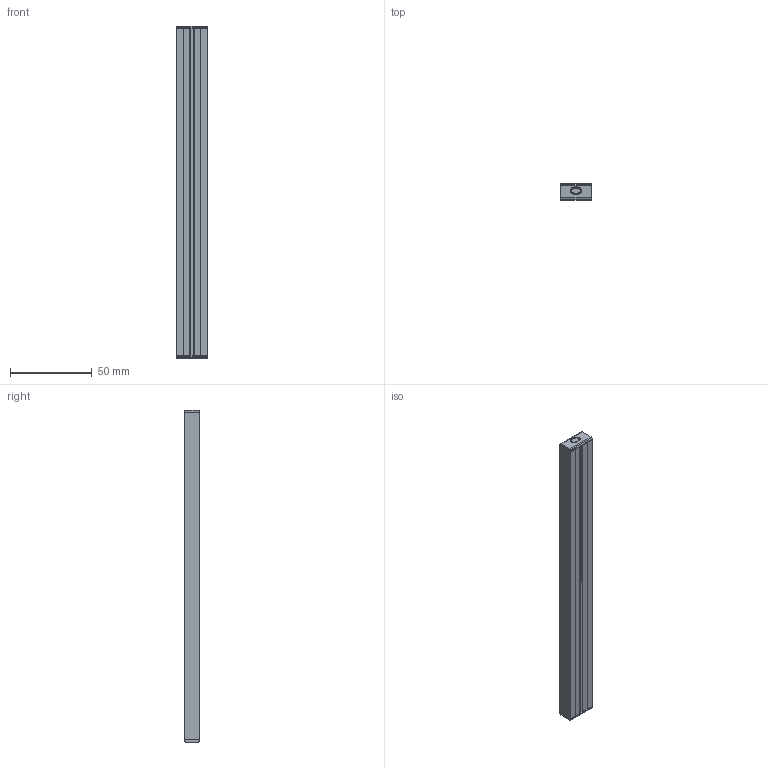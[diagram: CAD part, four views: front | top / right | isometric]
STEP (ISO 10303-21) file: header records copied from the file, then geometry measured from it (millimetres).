
FILE_DESCRIPTION (( 'STEP AP214' ), '1' );
FILE_NAME ('TrentoCompleto.STEP', '2022-02-24T08:44:33', ( '' ), ( '' ), 'SwSTEP 2.0', 'SolidWorks 2021', '' );
FILE_SCHEMA (( 'AUTOMOTIVE_DESIGN' ));
Length unit declared in the file: millimetre
Products named in the file (1): TrentoCompleto
Bounding box: 18.4 x 9.6 x 203 mm (x, y, z)
Volume: 18289.1 mm3; surface area: 27759.2 mm2
Topology: 4 solids, 4 shells, 242 faces, 672 edges, 442 vertices
Faces by surface type: plane 125, cylinder 97, torus 20
Entity records: 10505 total; most frequent: CARTESIAN_POINT 1441, DIRECTION 1360, ORIENTED_EDGE 1344, EDGE_CURVE 672, AXIS2_PLACEMENT_3D 473, VERTEX_POINT 442, VECTOR 414, LINE 414
